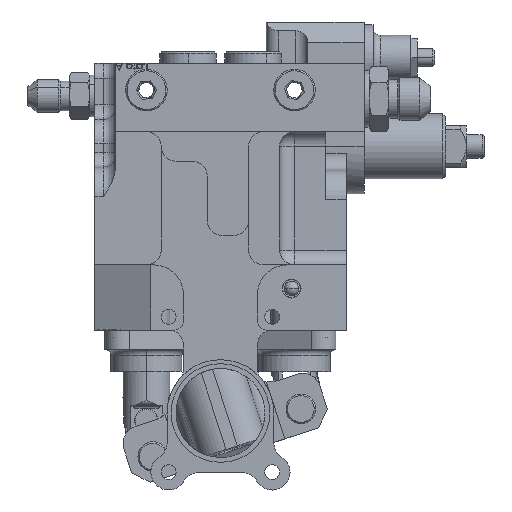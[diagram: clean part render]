
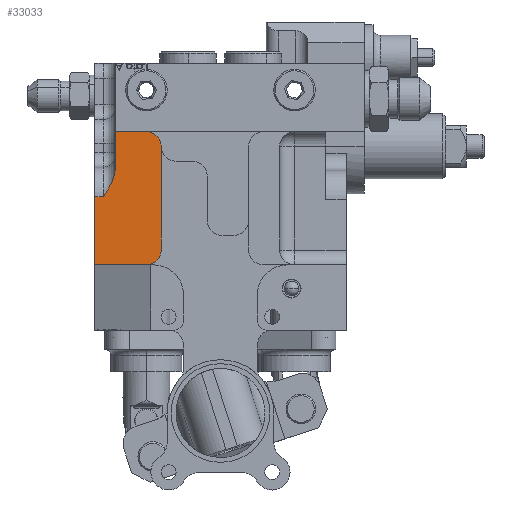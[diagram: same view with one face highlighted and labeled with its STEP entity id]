
A CAD part, front view. The second image highlights one B-rep face of the part: STEP entity #33033.
In plain terms, the highlighted planar face has unit normal (0, -1, 0).
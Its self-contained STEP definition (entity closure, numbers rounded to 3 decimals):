
#714 = VECTOR ( 'NONE', #9536, 1000. ) ;
#1549 = CARTESIAN_POINT ( 'NONE',  ( -35.5, -17., 54.798 ) ) ;
#2133 = ORIENTED_EDGE ( 'NONE', *, *, #5763, .T. ) ;
#2869 = ORIENTED_EDGE ( 'NONE', *, *, #25036, .T. ) ;
#3035 = ORIENTED_EDGE ( 'NONE', *, *, #32715, .T. ) ;
#3675 = CARTESIAN_POINT ( 'NONE',  ( -35.5, -17., 67. ) ) ;
#3699 = AXIS2_PLACEMENT_3D ( 'NONE', #32887, #39880, #17060 ) ;
#3802 = FACE_OUTER_BOUND ( 'NONE', #31483, .T. ) ;
#4646 = CARTESIAN_POINT ( 'NONE',  ( -35.646, -17., 53.009 ) ) ;
#4783 = CARTESIAN_POINT ( 'NONE',  ( -36.004, -17., 51.709 ) ) ;
#5198 = CARTESIAN_POINT ( 'NONE',  ( -37.211, -17., 48.823 ) ) ;
#5585 = DIRECTION ( 'NONE',  ( 0., -1., 0. ) ) ;
#5763 = EDGE_CURVE ( 'NONE', #14954, #6596, #16319, .T. ) ;
#5839 = CARTESIAN_POINT ( 'NONE',  ( -20., -17., 27. ) ) ;
#6071 = ORIENTED_EDGE ( 'NONE', *, *, #7133, .T. ) ;
#6228 = LINE ( 'NONE', #21350, #23800 ) ;
#6596 = VERTEX_POINT ( 'NONE', #38690 ) ;
#6943 = DIRECTION ( 'NONE',  ( 0., 0., 1. ) ) ;
#7133 = EDGE_CURVE ( 'NONE', #19670, #17313, #31318, .T. ) ;
#7686 = CARTESIAN_POINT ( 'NONE',  ( -25., -17., 67. ) ) ;
#8294 = VERTEX_POINT ( 'NONE', #3675 ) ;
#8415 = CARTESIAN_POINT ( 'NONE',  ( -38.545, -17., 46.509 ) ) ;
#8765 = CARTESIAN_POINT ( 'NONE',  ( -42.5, -17., 22. ) ) ;
#8814 = DIRECTION ( 'NONE',  ( 1., 0., 0. ) ) ;
#9331 = ORIENTED_EDGE ( 'NONE', *, *, #34648, .T. ) ;
#9536 = DIRECTION ( 'NONE',  ( 0., 0., 1. ) ) ;
#10298 = DIRECTION ( 'NONE',  ( 1., 0., 0. ) ) ;
#10778 = AXIS2_PLACEMENT_3D ( 'NONE', #18176, #5585, #8814 ) ;
#10855 = ORIENTED_EDGE ( 'NONE', *, *, #19922, .T. ) ;
#11090 = CARTESIAN_POINT ( 'NONE',  ( -36.643, -17., 50.033 ) ) ;
#11222 = CARTESIAN_POINT ( 'NONE',  ( -36.147, -17., 51.279 ) ) ;
#12061 = ORIENTED_EDGE ( 'NONE', *, *, #37406, .T. ) ;
#12272 = B_SPLINE_CURVE_WITH_KNOTS ( 'NONE', 3,
 ( #1549, #27348, #4646, #4783, #11222, #14705, #11090, #5198, #27486, #8415, #21036, #37137 ),
 .UNSPECIFIED., .F., .F.,
 ( 4, 2, 2, 2, 2, 4 ),
 ( 0., 0.003, 0.004, 0.005, 0.008, 0.011 ),
 .UNSPECIFIED. ) ;
#13771 = CIRCLE ( 'NONE', #10778, 5. ) ;
#14361 = DIRECTION ( 'NONE',  ( -1., 0., 0. ) ) ;
#14705 = CARTESIAN_POINT ( 'NONE',  ( -36.467, -17., 50.442 ) ) ;
#14954 = VERTEX_POINT ( 'NONE', #27979 ) ;
#15588 = VERTEX_POINT ( 'NONE', #22050 ) ;
#16319 = LINE ( 'NONE', #36787, #26914 ) ;
#17060 = DIRECTION ( 'NONE',  ( 1., 0., 0. ) ) ;
#17313 = VERTEX_POINT ( 'NONE', #29560 ) ;
#18025 = CARTESIAN_POINT ( 'NONE',  ( -42.5, -17., 90. ) ) ;
#18176 = CARTESIAN_POINT ( 'NONE',  ( -25., -17., 27. ) ) ;
#19057 = CARTESIAN_POINT ( 'NONE',  ( -20., -17., 62. ) ) ;
#19336 = ORIENTED_EDGE ( 'NONE', *, *, #25812, .T. ) ;
#19591 = VERTEX_POINT ( 'NONE', #33852 ) ;
#19670 = VERTEX_POINT ( 'NONE', #5839 ) ;
#19922 = EDGE_CURVE ( 'NONE', #38605, #15588, #39987, .T. ) ;
#20177 = CARTESIAN_POINT ( 'NONE',  ( -25., -17., 62. ) ) ;
#20249 = CARTESIAN_POINT ( 'NONE',  ( -25., -17., 22. ) ) ;
#20891 = VERTEX_POINT ( 'NONE', #7686 ) ;
#21036 = CARTESIAN_POINT ( 'NONE',  ( -39.022, -17., 45.756 ) ) ;
#21350 = CARTESIAN_POINT ( 'NONE',  ( -25., -17., 67. ) ) ;
#21878 = VECTOR ( 'NONE', #28445, 1000. ) ;
#22050 = CARTESIAN_POINT ( 'NONE',  ( -25., -17., 22. ) ) ;
#23259 = DIRECTION ( 'NONE',  ( 1., 0., 0. ) ) ;
#23459 = ORIENTED_EDGE ( 'NONE', *, *, #23753, .F. ) ;
#23753 = EDGE_CURVE ( 'NONE', #19591, #8294, #27419, .T. ) ;
#23800 = VECTOR ( 'NONE', #34223, 1000. ) ;
#25036 = EDGE_CURVE ( 'NONE', #15588, #19670, #13771, .T. ) ;
#25812 = EDGE_CURVE ( 'NONE', #17313, #20891, #26249, .T. ) ;
#26141 = CARTESIAN_POINT ( 'NONE',  ( -35.5, -17., 55. ) ) ;
#26249 = CIRCLE ( 'NONE', #29575, 5. ) ;
#26914 = VECTOR ( 'NONE', #14361, 1000. ) ;
#27348 = CARTESIAN_POINT ( 'NONE',  ( -35.5, -17., 53.891 ) ) ;
#27419 = LINE ( 'NONE', #26141, #37928 ) ;
#27486 = CARTESIAN_POINT ( 'NONE',  ( -37.639, -17., 48.044 ) ) ;
#27920 = LINE ( 'NONE', #18025, #21878 ) ;
#27979 = CARTESIAN_POINT ( 'NONE',  ( -39.5, -17., 45. ) ) ;
#28445 = DIRECTION ( 'NONE',  ( 0., 0., -1. ) ) ;
#29560 = CARTESIAN_POINT ( 'NONE',  ( -20., -17., 62. ) ) ;
#29575 = AXIS2_PLACEMENT_3D ( 'NONE', #20177, #39487, #23259 ) ;
#29832 = PLANE ( 'NONE',  #3699 ) ;
#29967 = VECTOR ( 'NONE', #10298, 1000. ) ;
#31318 = LINE ( 'NONE', #19057, #714 ) ;
#31483 = EDGE_LOOP ( 'NONE', ( #23459, #3035, #2133, #12061, #10855, #2869, #6071, #19336, #9331 ) ) ;
#32715 = EDGE_CURVE ( 'NONE', #19591, #14954, #12272, .T. ) ;
#32887 = CARTESIAN_POINT ( 'NONE',  ( -25., -17., 27. ) ) ;
#33033 = ADVANCED_FACE ( 'NONE', ( #3802 ), #29832, .T. ) ;
#33852 = CARTESIAN_POINT ( 'NONE',  ( -35.5, -17., 54.798 ) ) ;
#34223 = DIRECTION ( 'NONE',  ( -1., 0., 0. ) ) ;
#34648 = EDGE_CURVE ( 'NONE', #20891, #8294, #6228, .T. ) ;
#36787 = CARTESIAN_POINT ( 'NONE',  ( -42.5, -17., 45. ) ) ;
#37137 = CARTESIAN_POINT ( 'NONE',  ( -39.5, -17., 45. ) ) ;
#37406 = EDGE_CURVE ( 'NONE', #6596, #38605, #27920, .T. ) ;
#37928 = VECTOR ( 'NONE', #6943, 1000. ) ;
#38605 = VERTEX_POINT ( 'NONE', #8765 ) ;
#38690 = CARTESIAN_POINT ( 'NONE',  ( -42.5, -17., 45. ) ) ;
#39487 = DIRECTION ( 'NONE',  ( 0., -1., 0. ) ) ;
#39880 = DIRECTION ( 'NONE',  ( 0., -1., 0. ) ) ;
#39987 = LINE ( 'NONE', #20249, #29967 ) ;
